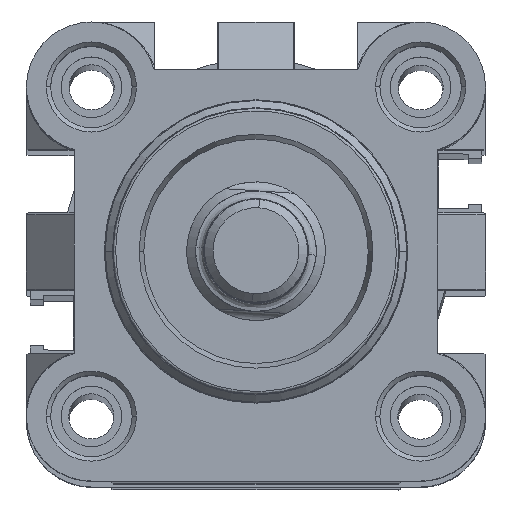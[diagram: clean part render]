
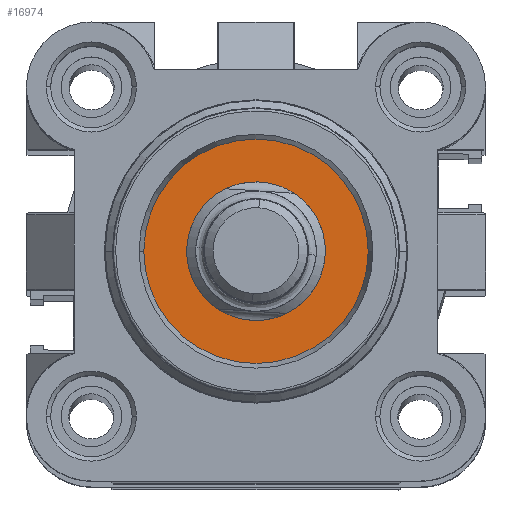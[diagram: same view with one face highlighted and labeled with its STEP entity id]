
A CAD part, top view. The second image highlights one B-rep face of the part: STEP entity #16974.
In plain terms, the highlighted planar face has unit normal (0, 0, 1) as drawn and (0, 0, -1) by its records, which use the part's own axes.
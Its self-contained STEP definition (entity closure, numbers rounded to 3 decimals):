
#214 = CIRCLE ( 'NONE', #16129, 12.954 ) ;
#3835 = EDGE_CURVE ( 'NONE', #21334, #10907, #26023, .T. ) ;
#4024 = CIRCLE ( 'NONE', #19438, 8. ) ;
#5818 = AXIS2_PLACEMENT_3D ( 'NONE', #14256, #14155, #14122 ) ;
#7718 = DIRECTION ( 'NONE',  ( -1., 0., 0. ) ) ;
#7747 = DIRECTION ( 'NONE',  ( 0., 0., -1. ) ) ;
#7794 = CARTESIAN_POINT ( 'NONE',  ( 21., 21., -18.6 ) ) ;
#8506 = EDGE_LOOP ( 'NONE', ( #8961, #9298 ) ) ;
#8627 = ORIENTED_EDGE ( 'NONE', *, *, #3835, .F. ) ;
#8677 = ORIENTED_EDGE ( 'NONE', *, *, #25104, .F. ) ;
#8844 = CARTESIAN_POINT ( 'NONE',  ( 21., 29., -18.6 ) ) ;
#8961 = ORIENTED_EDGE ( 'NONE', *, *, #15051, .T. ) ;
#9298 = ORIENTED_EDGE ( 'NONE', *, *, #14348, .T. ) ;
#9554 = FACE_OUTER_BOUND ( 'NONE', #8506, .T. ) ;
#10459 = CARTESIAN_POINT ( 'NONE',  ( 21., 13., -18.6 ) ) ;
#10462 = FACE_BOUND ( 'NONE', #11471, .T. ) ;
#10783 = VERTEX_POINT ( 'NONE', #11865 ) ;
#10907 = VERTEX_POINT ( 'NONE', #10459 ) ;
#10966 = CARTESIAN_POINT ( 'NONE',  ( 33.954, 21., -18.6 ) ) ;
#11175 = CIRCLE ( 'NONE', #21314, 12.954 ) ;
#11471 = EDGE_LOOP ( 'NONE', ( #8627, #8677 ) ) ;
#11865 = CARTESIAN_POINT ( 'NONE',  ( 8.046, 21., -18.6 ) ) ;
#14122 = DIRECTION ( 'NONE',  ( -1., 0., 0. ) ) ;
#14155 = DIRECTION ( 'NONE',  ( 0., 0., -1. ) ) ;
#14256 = CARTESIAN_POINT ( 'NONE',  ( 34.109, 7.891, -18.6 ) ) ;
#14348 = EDGE_CURVE ( 'NONE', #17875, #10783, #11175, .T. ) ;
#14490 = PLANE ( 'NONE',  #5818 ) ;
#15051 = EDGE_CURVE ( 'NONE', #10783, #17875, #214, .T. ) ;
#16129 = AXIS2_PLACEMENT_3D ( 'NONE', #18025, #18014, #17987 ) ;
#16974 = ADVANCED_FACE ( 'NONE', ( #10462, #9554 ), #14490, .T. ) ;
#17875 = VERTEX_POINT ( 'NONE', #10966 ) ;
#17987 = DIRECTION ( 'NONE',  ( -1., 0., 0. ) ) ;
#18014 = DIRECTION ( 'NONE',  ( 0., 0., -1. ) ) ;
#18025 = CARTESIAN_POINT ( 'NONE',  ( 21., 21., -18.6 ) ) ;
#19438 = AXIS2_PLACEMENT_3D ( 'NONE', #22613, #22534, #22528 ) ;
#21314 = AXIS2_PLACEMENT_3D ( 'NONE', #7794, #7747, #7718 ) ;
#21334 = VERTEX_POINT ( 'NONE', #8844 ) ;
#21750 = AXIS2_PLACEMENT_3D ( 'NONE', #23116, #23086, #22976 ) ;
#22528 = DIRECTION ( 'NONE',  ( 0., 1., 0. ) ) ;
#22534 = DIRECTION ( 'NONE',  ( 0., 0., -1. ) ) ;
#22613 = CARTESIAN_POINT ( 'NONE',  ( 21., 21., -18.6 ) ) ;
#22976 = DIRECTION ( 'NONE',  ( 0., 1., 0. ) ) ;
#23086 = DIRECTION ( 'NONE',  ( 0., 0., -1. ) ) ;
#23116 = CARTESIAN_POINT ( 'NONE',  ( 21., 21., -18.6 ) ) ;
#25104 = EDGE_CURVE ( 'NONE', #10907, #21334, #4024, .T. ) ;
#26023 = CIRCLE ( 'NONE', #21750, 8. ) ;
